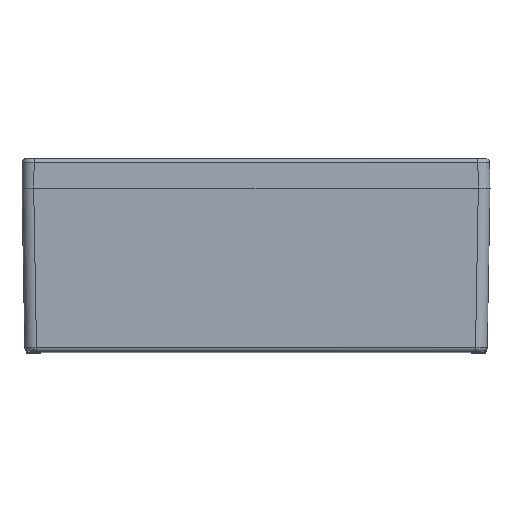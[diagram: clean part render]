
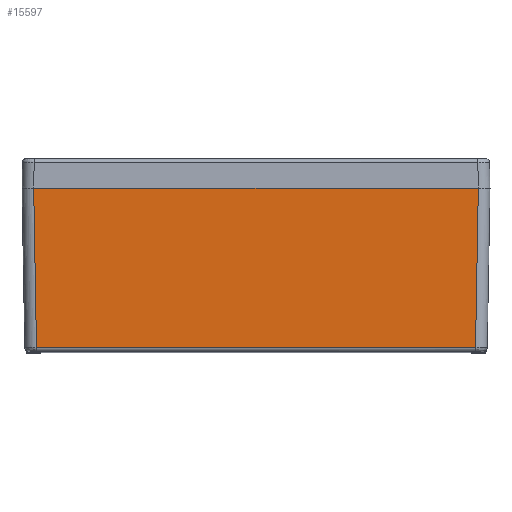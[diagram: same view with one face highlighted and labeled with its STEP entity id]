
A CAD part, top view. The second image highlights one B-rep face of the part: STEP entity #15597.
In plain terms, the highlighted planar face has unit normal (0, -0.018, 1).
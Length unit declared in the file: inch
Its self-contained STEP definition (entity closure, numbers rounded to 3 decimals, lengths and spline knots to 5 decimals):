
#561 = EDGE_LOOP ( 'NONE', ( #2039, #2040, #2041, #2042 ) ) ;
#2039 = ORIENTED_EDGE ( 'NONE', *, *, #15076, .T. ) ;
#2040 = ORIENTED_EDGE ( 'NONE', *, *, #15080, .F. ) ;
#2041 = ORIENTED_EDGE ( 'NONE', *, *, #15079, .F. ) ;
#2042 = ORIENTED_EDGE ( 'NONE', *, *, #15158, .T. ) ;
#5286 = VERTEX_POINT ( 'NONE', #8384 ) ;
#5291 = VERTEX_POINT ( 'NONE', #8389 ) ;
#5321 = VERTEX_POINT ( 'NONE', #8419 ) ;
#8384 = CARTESIAN_POINT ( 'NONE',  ( 7.48037, 0., 7.97244 ) ) ;
#8389 = CARTESIAN_POINT ( 'NONE',  ( 7.38687, -5.35708, 7.87893 ) ) ;
#8419 = CARTESIAN_POINT ( 'NONE',  ( -7.48037, 0., 7.97244 ) ) ;
#9027 = CARTESIAN_POINT ( 'NONE',  ( -7.38687, -5.35708, 7.87893 ) ) ;
#9114 = CARTESIAN_POINT ( 'NONE',  ( -7.48037, 0., 7.97244 ) ) ;
#9115 = DIRECTION ( 'NONE',  ( 0.017, -1., -0.017 ) ) ;
#9129 = CARTESIAN_POINT ( 'NONE',  ( 7.53085, -5.35708, 7.87893 ) ) ;
#9132 = CARTESIAN_POINT ( 'NONE',  ( 7.48101, 0.03614, 7.97307 ) ) ;
#9133 = DIRECTION ( 'NONE',  ( -0.017, -1., -0.017 ) ) ;
#9135 = DIRECTION ( 'NONE',  ( -1., 0., 0. ) ) ;
#9590 = AXIS2_PLACEMENT_3D ( 'NONE', #12528, #12533, #12534 ) ;
#9800 = LINE ( 'NONE', #9114, #9801 ) ;
#9801 = VECTOR ( 'NONE', #9115, 39.37008 ) ;
#9802 = LINE ( 'NONE', #9129, #9805 ) ;
#9803 = LINE ( 'NONE', #9132, #9804 ) ;
#9804 = VECTOR ( 'NONE', #9133, 39.37008 ) ;
#9805 = VECTOR ( 'NONE', #9135, 39.37008 ) ;
#9899 = VECTOR ( 'NONE', #11147, 39.37008 ) ;
#9907 = LINE ( 'NONE', #11146, #9899 ) ;
#10621 = FACE_OUTER_BOUND ( 'NONE', #561, .T. ) ;
#11146 = CARTESIAN_POINT ( 'NONE',  ( -8.19061, 0., 7.97244 ) ) ;
#11147 = DIRECTION ( 'NONE',  ( -1., 0., 0. ) ) ;
#12528 = CARTESIAN_POINT ( 'NONE',  ( -8.19061, 0., 7.97244 ) ) ;
#12530 = PLANE ( 'NONE',  #9590 ) ;
#12533 = DIRECTION ( 'NONE',  ( 0., -0.017, 1. ) ) ;
#12534 = DIRECTION ( 'NONE',  ( 0., -1., -0.017 ) ) ;
#14994 = VERTEX_POINT ( 'NONE', #9027 ) ;
#15076 = EDGE_CURVE ( 'NONE', #5321, #14994, #9800, .T. ) ;
#15079 = EDGE_CURVE ( 'NONE', #5286, #5291, #9803, .T. ) ;
#15080 = EDGE_CURVE ( 'NONE', #5291, #14994, #9802, .T. ) ;
#15158 = EDGE_CURVE ( 'NONE', #5286, #5321, #9907, .T. ) ;
#15597 = ADVANCED_FACE ( 'NONE', ( #10621 ), #12530, .T. ) ;
